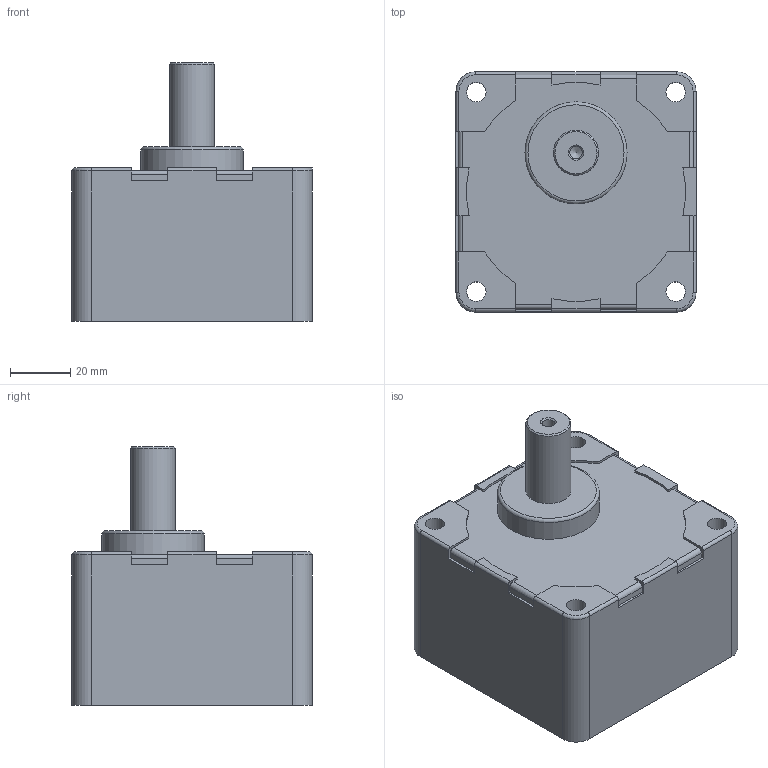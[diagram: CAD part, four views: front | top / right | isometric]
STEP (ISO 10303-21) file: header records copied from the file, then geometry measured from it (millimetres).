
FILE_DESCRIPTION(/* description */ (''),/* implementation_level */ '2;1');
FILE_NAME(/* name */ 'E:\도면작업\2016\0704) 미주향 SG 도면\3D GEAR HEAD\SG8SA150~360.stp',/* time_stamp */ '2016-07-22T14:03:42+09:00',/* author */ ('jy-jung'),/* organization */ (''),/* preprocessor_version */ 'ST-DEVELOPER v15.6',/* originating_system */ 'Autodesk Inventor 2015',/* authorisation */ '');
FILE_SCHEMA (('AUTOMOTIVE_DESIGN { 1 0 10303 214 3 1 1 }'));
Length unit declared in the file: millimetre
Products named in the file (1): SG8SA150~360
Bounding box: 80 x 80 x 86 mm (x, y, z)
Volume: 314886 mm3; surface area: 35499.6 mm2
Topology: 1 solids, 1 shells, 100 faces, 268 edges, 174 vertices
Faces by surface type: plane 50, cylinder 40, cone 5, torus 5
Full cylindrical faces by diameter (mm): 4.134 x1, 6.5 x4, 7.5 x1, 15 x1, 34 x1, 73 x1
Entity records: 3085 total; most frequent: DIRECTION 543, CARTESIAN_POINT 526, ORIENTED_EDGE 504, EDGE_CURVE 252, AXIS2_PLACEMENT_3D 190, VERTEX_POINT 173, LINE 163, VECTOR 163
